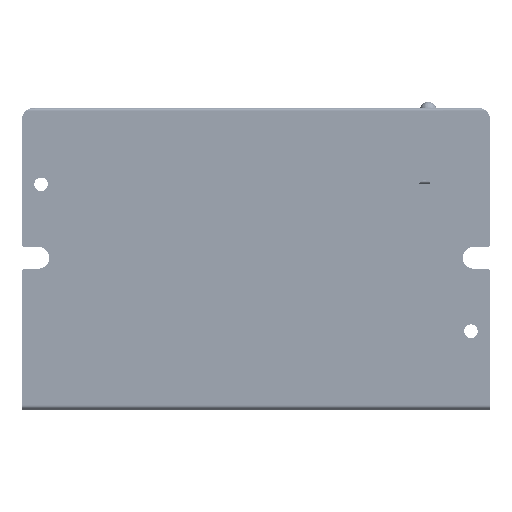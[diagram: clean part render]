
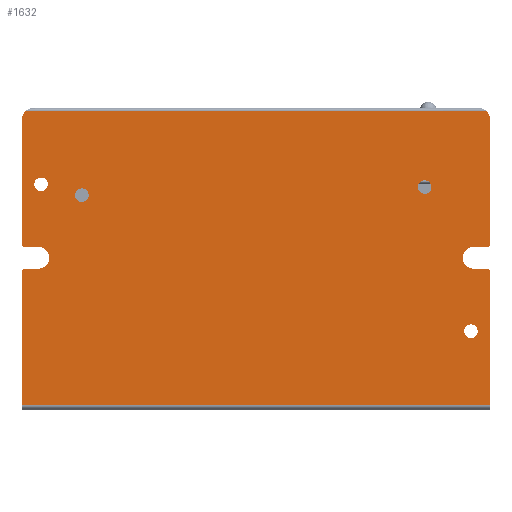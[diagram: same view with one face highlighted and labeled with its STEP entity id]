
A CAD part, front view. The second image highlights one B-rep face of the part: STEP entity #1632.
In plain terms, the highlighted planar face has unit normal (0, -1, 0).
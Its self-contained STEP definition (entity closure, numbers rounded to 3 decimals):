
#450=CARTESIAN_POINT('',(42.5,0.,25.5));
#451=DIRECTION('',(0.,1.,0.));
#452=DIRECTION('',(0.,0.,1.));
#453=AXIS2_PLACEMENT_3D('',#450,#451,#452);
#455=DIRECTION('',(0.,0.,1.));
#456=VECTOR('',#455,24.5);
#457=CARTESIAN_POINT('',(-43.,0.,1.));
#458=LINE('',#457,#456);
#459=CARTESIAN_POINT('',(-42.5,0.,25.5));
#460=DIRECTION('',(0.,1.,0.));
#461=DIRECTION('',(-1.,0.,0.));
#462=AXIS2_PLACEMENT_3D('',#459,#460,#461);
#464=CARTESIAN_POINT('',(-40.,0.,28.));
#465=DIRECTION('',(0.,-1.,0.));
#466=DIRECTION('',(0.,0.,-1.));
#467=AXIS2_PLACEMENT_3D('',#464,#465,#466);
#469=CARTESIAN_POINT('',(-40.,0.,28.));
#470=DIRECTION('',(0.,-1.,0.));
#471=DIRECTION('',(1.,0.,0.));
#472=AXIS2_PLACEMENT_3D('',#469,#470,#471);
#474=DIRECTION('',(-1.,0.,0.));
#475=VECTOR('',#474,2.5);
#476=CARTESIAN_POINT('',(-40.,0.,30.));
#477=LINE('',#476,#475);
#478=CARTESIAN_POINT('',(-42.5,0.,30.5));
#479=DIRECTION('',(0.,1.,0.));
#480=DIRECTION('',(0.,0.,-1.));
#481=AXIS2_PLACEMENT_3D('',#478,#479,#480);
#483=DIRECTION('',(0.,0.,1.));
#484=VECTOR('',#483,23.);
#485=CARTESIAN_POINT('',(-43.,0.,30.5));
#486=LINE('',#485,#484);
#487=CARTESIAN_POINT('',(-41.,0.,53.5));
#488=DIRECTION('',(0.,1.,0.));
#489=DIRECTION('',(-1.,0.,0.));
#490=AXIS2_PLACEMENT_3D('',#487,#488,#489);
#492=CARTESIAN_POINT('',(41.,0.,53.5));
#493=DIRECTION('',(0.,1.,0.));
#494=DIRECTION('',(0.661,0.,0.75));
#495=AXIS2_PLACEMENT_3D('',#492,#493,#494);
#497=CARTESIAN_POINT('',(42.5,0.,30.5));
#498=DIRECTION('',(0.,1.,0.));
#499=DIRECTION('',(1.,0.,0.));
#500=AXIS2_PLACEMENT_3D('',#497,#498,#499);
#502=CARTESIAN_POINT('',(40.,0.,28.));
#503=DIRECTION('',(0.,-1.,0.));
#504=DIRECTION('',(0.,0.,1.));
#505=AXIS2_PLACEMENT_3D('',#502,#503,#504);
#507=CARTESIAN_POINT('',(40.,0.,28.));
#508=DIRECTION('',(0.,-1.,0.));
#509=DIRECTION('',(-1.,0.,0.));
#510=AXIS2_PLACEMENT_3D('',#507,#508,#509);
#512=DIRECTION('',(1.,0.,0.));
#513=VECTOR('',#512,2.5);
#514=CARTESIAN_POINT('',(40.,0.,26.));
#515=LINE('',#514,#513);
#516=CARTESIAN_POINT('',(-39.5,0.,41.5));
#517=DIRECTION('',(0.,-1.,0.));
#518=DIRECTION('',(-1.,0.,0.));
#519=AXIS2_PLACEMENT_3D('',#516,#517,#518);
#521=CARTESIAN_POINT('',(-39.5,0.,41.5));
#522=DIRECTION('',(0.,-1.,0.));
#523=DIRECTION('',(1.,0.,0.));
#524=AXIS2_PLACEMENT_3D('',#521,#522,#523);
#526=CARTESIAN_POINT('',(39.5,0.,14.5));
#527=DIRECTION('',(0.,-1.,0.));
#528=DIRECTION('',(-1.,0.,0.));
#529=AXIS2_PLACEMENT_3D('',#526,#527,#528);
#531=CARTESIAN_POINT('',(39.5,0.,14.5));
#532=DIRECTION('',(0.,-1.,0.));
#533=DIRECTION('',(1.,0.,0.));
#534=AXIS2_PLACEMENT_3D('',#531,#532,#533);
#536=CARTESIAN_POINT('',(31.,0.,41.));
#537=DIRECTION('',(0.,-1.,0.));
#538=DIRECTION('',(-1.,0.,0.));
#539=AXIS2_PLACEMENT_3D('',#536,#537,#538);
#541=CARTESIAN_POINT('',(31.,0.,41.));
#542=DIRECTION('',(0.,-1.,0.));
#543=DIRECTION('',(1.,0.,0.));
#544=AXIS2_PLACEMENT_3D('',#541,#542,#543);
#546=CARTESIAN_POINT('',(-32.,0.,39.5));
#547=DIRECTION('',(0.,-1.,0.));
#548=DIRECTION('',(-1.,0.,0.));
#549=AXIS2_PLACEMENT_3D('',#546,#547,#548);
#551=CARTESIAN_POINT('',(-32.,0.,39.5));
#552=DIRECTION('',(0.,-1.,0.));
#553=DIRECTION('',(1.,0.,0.));
#554=AXIS2_PLACEMENT_3D('',#551,#552,#553);
#614=DIRECTION('',(0.,0.,1.));
#615=VECTOR('',#614,24.5);
#616=CARTESIAN_POINT('',(43.,0.,1.));
#617=LINE('',#616,#615);
#814=DIRECTION('',(1.,0.,0.));
#815=VECTOR('',#814,86.);
#816=CARTESIAN_POINT('',(-43.,0.,1.));
#817=LINE('',#816,#815);
#950=DIRECTION('',(-1.,0.,0.));
#951=VECTOR('',#950,2.5);
#952=CARTESIAN_POINT('',(-40.,0.,26.));
#953=LINE('',#952,#951);
#1014=DIRECTION('',(0.,0.,1.));
#1015=VECTOR('',#1014,23.);
#1016=CARTESIAN_POINT('',(43.,0.,30.5));
#1017=LINE('',#1016,#1015);
#1030=DIRECTION('',(1.,0.,0.));
#1031=VECTOR('',#1030,2.5);
#1032=CARTESIAN_POINT('',(40.,0.,30.));
#1033=LINE('',#1032,#1031);
#1054=DIRECTION('',(-1.,0.,0.));
#1055=VECTOR('',#1054,84.646);
#1056=CARTESIAN_POINT('',(42.323,0.,55.));
#1057=LINE('',#1056,#1055);
#1174=CARTESIAN_POINT('',(-43.,0.,25.5));
#1176=VERTEX_POINT('',#1174);
#1178=CARTESIAN_POINT('',(-43.,0.,1.));
#1179=VERTEX_POINT('',#1178);
#1207=CARTESIAN_POINT('',(-43.,0.,30.5));
#1209=VERTEX_POINT('',#1207);
#1212=CARTESIAN_POINT('',(-43.,0.,53.5));
#1213=VERTEX_POINT('',#1212);
#1224=CARTESIAN_POINT('',(-42.5,0.,26.));
#1225=VERTEX_POINT('',#1224);
#1272=CARTESIAN_POINT('',(42.5,0.,26.));
#1273=CARTESIAN_POINT('',(43.,0.,25.5));
#1274=VERTEX_POINT('',#1272);
#1275=VERTEX_POINT('',#1273);
#1276=CARTESIAN_POINT('',(43.,0.,1.));
#1277=VERTEX_POINT('',#1276);
#1278=CARTESIAN_POINT('',(-40.,0.,26.));
#1279=VERTEX_POINT('',#1278);
#1280=CARTESIAN_POINT('',(-38.,0.,28.));
#1281=CARTESIAN_POINT('',(-40.,0.,30.));
#1282=VERTEX_POINT('',#1280);
#1283=VERTEX_POINT('',#1281);
#1284=CARTESIAN_POINT('',(-42.5,0.,30.));
#1285=VERTEX_POINT('',#1284);
#1286=CARTESIAN_POINT('',(-42.323,0.,55.));
#1287=VERTEX_POINT('',#1286);
#1288=CARTESIAN_POINT('',(42.323,0.,55.));
#1289=VERTEX_POINT('',#1288);
#1290=CARTESIAN_POINT('',(43.,0.,53.5));
#1291=VERTEX_POINT('',#1290);
#1292=CARTESIAN_POINT('',(43.,0.,30.5));
#1293=VERTEX_POINT('',#1292);
#1294=CARTESIAN_POINT('',(42.5,0.,30.));
#1295=VERTEX_POINT('',#1294);
#1296=CARTESIAN_POINT('',(40.,0.,30.));
#1297=VERTEX_POINT('',#1296);
#1298=CARTESIAN_POINT('',(38.,0.,28.));
#1299=CARTESIAN_POINT('',(40.,0.,26.));
#1300=VERTEX_POINT('',#1298);
#1301=VERTEX_POINT('',#1299);
#1302=CARTESIAN_POINT('',(-40.75,0.,41.5));
#1303=CARTESIAN_POINT('',(-38.25,0.,41.5));
#1304=VERTEX_POINT('',#1302);
#1305=VERTEX_POINT('',#1303);
#1306=CARTESIAN_POINT('',(38.25,0.,14.5));
#1307=CARTESIAN_POINT('',(40.75,0.,14.5));
#1308=VERTEX_POINT('',#1306);
#1309=VERTEX_POINT('',#1307);
#1310=CARTESIAN_POINT('',(29.75,0.,41.));
#1311=CARTESIAN_POINT('',(32.25,0.,41.));
#1312=VERTEX_POINT('',#1310);
#1313=VERTEX_POINT('',#1311);
#1314=CARTESIAN_POINT('',(-33.25,0.,39.5));
#1315=CARTESIAN_POINT('',(-30.75,0.,39.5));
#1316=VERTEX_POINT('',#1314);
#1317=VERTEX_POINT('',#1315);
#1564=CARTESIAN_POINT('',(-43.,0.,55.5));
#1565=DIRECTION('',(0.,-1.,0.));
#1566=DIRECTION('',(0.,0.,-1.));
#1567=AXIS2_PLACEMENT_3D('',#1564,#1565,#1566);
#1568=PLANE('',#1567);
#1569=ORIENTED_EDGE('',*,*,#1554,.T.);
#1571=ORIENTED_EDGE('',*,*,#1570,.F.);
#1573=ORIENTED_EDGE('',*,*,#1572,.F.);
#1574=ORIENTED_EDGE('',*,*,#1431,.T.);
#1575=ORIENTED_EDGE('',*,*,#1473,.T.);
#1577=ORIENTED_EDGE('',*,*,#1576,.F.);
#1579=ORIENTED_EDGE('',*,*,#1578,.T.);
#1581=ORIENTED_EDGE('',*,*,#1580,.T.);
#1583=ORIENTED_EDGE('',*,*,#1582,.T.);
#1585=ORIENTED_EDGE('',*,*,#1584,.T.);
#1587=ORIENTED_EDGE('',*,*,#1586,.T.);
#1589=ORIENTED_EDGE('',*,*,#1588,.T.);
#1591=ORIENTED_EDGE('',*,*,#1590,.F.);
#1593=ORIENTED_EDGE('',*,*,#1592,.T.);
#1595=ORIENTED_EDGE('',*,*,#1594,.F.);
#1597=ORIENTED_EDGE('',*,*,#1596,.T.);
#1599=ORIENTED_EDGE('',*,*,#1598,.F.);
#1601=ORIENTED_EDGE('',*,*,#1600,.T.);
#1603=ORIENTED_EDGE('',*,*,#1602,.T.);
#1605=ORIENTED_EDGE('',*,*,#1604,.T.);
#1606=EDGE_LOOP('',(#1569,#1571,#1573,#1574,#1575,#1577,#1579,#1581,#1583,#1585,
#1587,#1589,#1591,#1593,#1595,#1597,#1599,#1601,#1603,#1605));
#1607=FACE_OUTER_BOUND('',#1606,.F.);
#1609=ORIENTED_EDGE('',*,*,#1608,.T.);
#1611=ORIENTED_EDGE('',*,*,#1610,.T.);
#1612=EDGE_LOOP('',(#1609,#1611));
#1613=FACE_BOUND('',#1612,.F.);
#1615=ORIENTED_EDGE('',*,*,#1614,.T.);
#1617=ORIENTED_EDGE('',*,*,#1616,.T.);
#1618=EDGE_LOOP('',(#1615,#1617));
#1619=FACE_BOUND('',#1618,.F.);
#1621=ORIENTED_EDGE('',*,*,#1620,.T.);
#1623=ORIENTED_EDGE('',*,*,#1622,.T.);
#1624=EDGE_LOOP('',(#1621,#1623));
#1625=FACE_BOUND('',#1624,.F.);
#1627=ORIENTED_EDGE('',*,*,#1626,.T.);
#1629=ORIENTED_EDGE('',*,*,#1628,.T.);
#1630=EDGE_LOOP('',(#1627,#1629));
#1631=FACE_BOUND('',#1630,.F.);
#454=CIRCLE('',#453,0.5);
#463=CIRCLE('',#462,0.5);
#468=CIRCLE('',#467,2.);
#473=CIRCLE('',#472,2.);
#482=CIRCLE('',#481,0.5);
#491=CIRCLE('',#490,2.);
#496=CIRCLE('',#495,2.);
#501=CIRCLE('',#500,0.5);
#506=CIRCLE('',#505,2.);
#511=CIRCLE('',#510,2.);
#520=CIRCLE('',#519,1.25);
#525=CIRCLE('',#524,1.25);
#530=CIRCLE('',#529,1.25);
#535=CIRCLE('',#534,1.25);
#540=CIRCLE('',#539,1.25);
#545=CIRCLE('',#544,1.25);
#550=CIRCLE('',#549,1.25);
#555=CIRCLE('',#554,1.25);
#1431=EDGE_CURVE('',#1179,#1176,#458,.T.);
#1473=EDGE_CURVE('',#1176,#1225,#463,.T.);
#1554=EDGE_CURVE('',#1274,#1275,#454,.T.);
#1570=EDGE_CURVE('',#1277,#1275,#617,.T.);
#1572=EDGE_CURVE('',#1179,#1277,#817,.T.);
#1576=EDGE_CURVE('',#1279,#1225,#953,.T.);
#1578=EDGE_CURVE('',#1279,#1282,#468,.T.);
#1580=EDGE_CURVE('',#1282,#1283,#473,.T.);
#1582=EDGE_CURVE('',#1283,#1285,#477,.T.);
#1584=EDGE_CURVE('',#1285,#1209,#482,.T.);
#1586=EDGE_CURVE('',#1209,#1213,#486,.T.);
#1588=EDGE_CURVE('',#1213,#1287,#491,.T.);
#1590=EDGE_CURVE('',#1289,#1287,#1057,.T.);
#1592=EDGE_CURVE('',#1289,#1291,#496,.T.);
#1594=EDGE_CURVE('',#1293,#1291,#1017,.T.);
#1596=EDGE_CURVE('',#1293,#1295,#501,.T.);
#1598=EDGE_CURVE('',#1297,#1295,#1033,.T.);
#1600=EDGE_CURVE('',#1297,#1300,#506,.T.);
#1602=EDGE_CURVE('',#1300,#1301,#511,.T.);
#1604=EDGE_CURVE('',#1301,#1274,#515,.T.);
#1608=EDGE_CURVE('',#1304,#1305,#520,.T.);
#1610=EDGE_CURVE('',#1305,#1304,#525,.T.);
#1614=EDGE_CURVE('',#1308,#1309,#530,.T.);
#1616=EDGE_CURVE('',#1309,#1308,#535,.T.);
#1620=EDGE_CURVE('',#1312,#1313,#540,.T.);
#1622=EDGE_CURVE('',#1313,#1312,#545,.T.);
#1626=EDGE_CURVE('',#1316,#1317,#550,.T.);
#1628=EDGE_CURVE('',#1317,#1316,#555,.T.);
#1632=ADVANCED_FACE('',(#1607,#1613,#1619,#1625,#1631),#1568,.T.);
